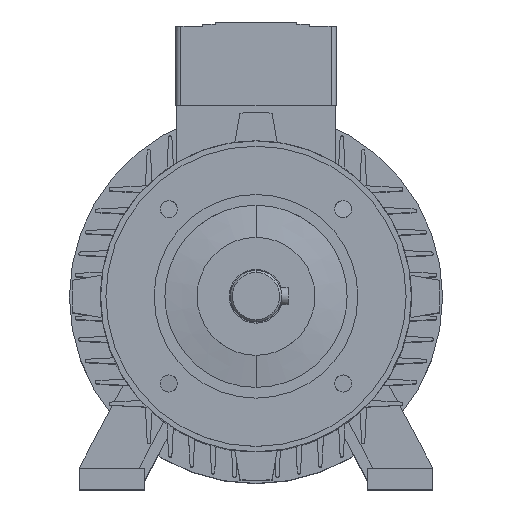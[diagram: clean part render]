
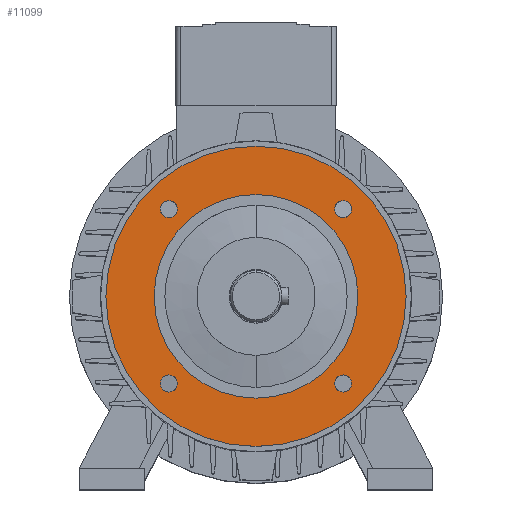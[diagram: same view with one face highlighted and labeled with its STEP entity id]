
A CAD part, top view. The second image highlights one B-rep face of the part: STEP entity #11099.
In plain terms, the highlighted planar face has unit normal (0, 0, 1).
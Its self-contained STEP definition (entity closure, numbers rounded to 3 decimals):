
#3674=CARTESIAN_POINT('',(-40.659,40.659,31.5));
#3675=DIRECTION('',(0.,0.,-1.));
#3676=DIRECTION('',(-1.,0.,0.));
#3677=AXIS2_PLACEMENT_3D('',#3674,#3675,#3676);
#3679=CARTESIAN_POINT('',(-40.659,40.659,31.5));
#3680=DIRECTION('',(0.,0.,-1.));
#3681=DIRECTION('',(1.,0.,0.));
#3682=AXIS2_PLACEMENT_3D('',#3679,#3680,#3681);
#3684=CARTESIAN_POINT('',(-40.659,-40.659,31.5));
#3685=DIRECTION('',(0.,0.,-1.));
#3686=DIRECTION('',(-1.,0.,0.));
#3687=AXIS2_PLACEMENT_3D('',#3684,#3685,#3686);
#3689=CARTESIAN_POINT('',(-40.659,-40.659,31.5));
#3690=DIRECTION('',(0.,0.,-1.));
#3691=DIRECTION('',(1.,0.,0.));
#3692=AXIS2_PLACEMENT_3D('',#3689,#3690,#3691);
#3694=CARTESIAN_POINT('',(40.659,-40.659,31.5));
#3695=DIRECTION('',(0.,0.,-1.));
#3696=DIRECTION('',(-1.,0.,0.));
#3697=AXIS2_PLACEMENT_3D('',#3694,#3695,#3696);
#3699=CARTESIAN_POINT('',(40.659,-40.659,31.5));
#3700=DIRECTION('',(0.,0.,-1.));
#3701=DIRECTION('',(1.,0.,0.));
#3702=AXIS2_PLACEMENT_3D('',#3699,#3700,#3701);
#3704=CARTESIAN_POINT('',(0.,0.,31.5));
#3705=DIRECTION('',(0.,0.,1.));
#3706=DIRECTION('',(0.,1.,0.));
#3707=AXIS2_PLACEMENT_3D('',#3704,#3705,#3706);
#3709=CARTESIAN_POINT('',(0.,0.,31.5));
#3710=DIRECTION('',(0.,0.,-1.));
#3711=DIRECTION('',(0.,1.,0.));
#3712=AXIS2_PLACEMENT_3D('',#3709,#3710,#3711);
#3714=CARTESIAN_POINT('',(40.659,40.659,31.5));
#3715=DIRECTION('',(0.,0.,-1.));
#3716=DIRECTION('',(-1.,0.,0.));
#3717=AXIS2_PLACEMENT_3D('',#3714,#3715,#3716);
#3719=CARTESIAN_POINT('',(40.659,40.659,31.5));
#3720=DIRECTION('',(0.,0.,-1.));
#3721=DIRECTION('',(1.,0.,0.));
#3722=AXIS2_PLACEMENT_3D('',#3719,#3720,#3721);
#4104=CARTESIAN_POINT('',(0.,0.,31.5));
#4105=DIRECTION('',(0.,0.,1.));
#4106=DIRECTION('',(0.,1.,0.));
#4107=AXIS2_PLACEMENT_3D('',#4104,#4105,#4106);
#4109=CARTESIAN_POINT('',(0.,0.,31.5));
#4110=DIRECTION('',(0.,0.,-1.));
#4111=DIRECTION('',(0.,1.,0.));
#4112=AXIS2_PLACEMENT_3D('',#4109,#4110,#4111);
#4769=CARTESIAN_POINT('',(0.,70.,31.5));
#4771=VERTEX_POINT('',#4769);
#4772=CARTESIAN_POINT('',(0.,47.5,31.5));
#4774=VERTEX_POINT('',#4772);
#4777=CARTESIAN_POINT('',(0.,-70.,31.5));
#4779=VERTEX_POINT('',#4777);
#4780=CARTESIAN_POINT('',(0.,-47.5,31.5));
#4782=VERTEX_POINT('',#4780);
#4792=CARTESIAN_POINT('',(36.659,40.659,31.5));
#4793=CARTESIAN_POINT('',(44.659,40.659,31.5));
#4794=VERTEX_POINT('',#4792);
#4795=VERTEX_POINT('',#4793);
#4796=CARTESIAN_POINT('',(36.659,-40.659,31.5));
#4797=CARTESIAN_POINT('',(44.659,-40.659,31.5));
#4798=VERTEX_POINT('',#4796);
#4799=VERTEX_POINT('',#4797);
#4800=CARTESIAN_POINT('',(-44.659,-40.659,31.5));
#4801=CARTESIAN_POINT('',(-36.659,-40.659,31.5));
#4802=VERTEX_POINT('',#4800);
#4803=VERTEX_POINT('',#4801);
#4804=CARTESIAN_POINT('',(-44.659,40.659,31.5));
#4805=CARTESIAN_POINT('',(-36.659,40.659,31.5));
#4806=VERTEX_POINT('',#4804);
#4807=VERTEX_POINT('',#4805);
#11060=CARTESIAN_POINT('',(0.,0.,31.5));
#11061=DIRECTION('',(0.,0.,-1.));
#11062=DIRECTION('',(0.,-1.,0.));
#11063=AXIS2_PLACEMENT_3D('',#11060,#11061,#11062);
#11064=PLANE('',#11063);
#11065=ORIENTED_EDGE('',*,*,#11053,.F.);
#11066=ORIENTED_EDGE('',*,*,#11042,.T.);
#11067=EDGE_LOOP('',(#11065,#11066));
#11068=FACE_OUTER_BOUND('',#11067,.F.);
#11070=ORIENTED_EDGE('',*,*,#11069,.F.);
#11072=ORIENTED_EDGE('',*,*,#11071,.F.);
#11073=EDGE_LOOP('',(#11070,#11072));
#11074=FACE_BOUND('',#11073,.F.);
#11076=ORIENTED_EDGE('',*,*,#11075,.F.);
#11078=ORIENTED_EDGE('',*,*,#11077,.F.);
#11079=EDGE_LOOP('',(#11076,#11078));
#11080=FACE_BOUND('',#11079,.F.);
#11082=ORIENTED_EDGE('',*,*,#11081,.F.);
#11084=ORIENTED_EDGE('',*,*,#11083,.F.);
#11085=EDGE_LOOP('',(#11082,#11084));
#11086=FACE_BOUND('',#11085,.F.);
#11088=ORIENTED_EDGE('',*,*,#11087,.F.);
#11090=ORIENTED_EDGE('',*,*,#11089,.T.);
#11091=EDGE_LOOP('',(#11088,#11090));
#11092=FACE_BOUND('',#11091,.F.);
#11094=ORIENTED_EDGE('',*,*,#11093,.F.);
#11096=ORIENTED_EDGE('',*,*,#11095,.F.);
#11097=EDGE_LOOP('',(#11094,#11096));
#11098=FACE_BOUND('',#11097,.F.);
#11099=ADVANCED_FACE('',(#11068,#11074,#11080,#11086,#11092,#11098),#11064,.F.);
#3678=CIRCLE('',#3677,4.);
#3683=CIRCLE('',#3682,4.);
#3688=CIRCLE('',#3687,4.);
#3693=CIRCLE('',#3692,4.);
#3698=CIRCLE('',#3697,4.);
#3703=CIRCLE('',#3702,4.);
#3708=CIRCLE('',#3707,70.);
#3713=CIRCLE('',#3712,70.);
#3718=CIRCLE('',#3717,4.);
#3723=CIRCLE('',#3722,4.);
#4108=CIRCLE('',#4107,47.5);
#4113=CIRCLE('',#4112,47.5);
#11042=EDGE_CURVE('',#4771,#4779,#3713,.T.);
#11053=EDGE_CURVE('',#4771,#4779,#3708,.T.);
#11069=EDGE_CURVE('',#4806,#4807,#3678,.T.);
#11071=EDGE_CURVE('',#4807,#4806,#3683,.T.);
#11075=EDGE_CURVE('',#4802,#4803,#3688,.T.);
#11077=EDGE_CURVE('',#4803,#4802,#3693,.T.);
#11081=EDGE_CURVE('',#4798,#4799,#3698,.T.);
#11083=EDGE_CURVE('',#4799,#4798,#3703,.T.);
#11087=EDGE_CURVE('',#4774,#4782,#4113,.T.);
#11089=EDGE_CURVE('',#4774,#4782,#4108,.T.);
#11093=EDGE_CURVE('',#4794,#4795,#3718,.T.);
#11095=EDGE_CURVE('',#4795,#4794,#3723,.T.);
